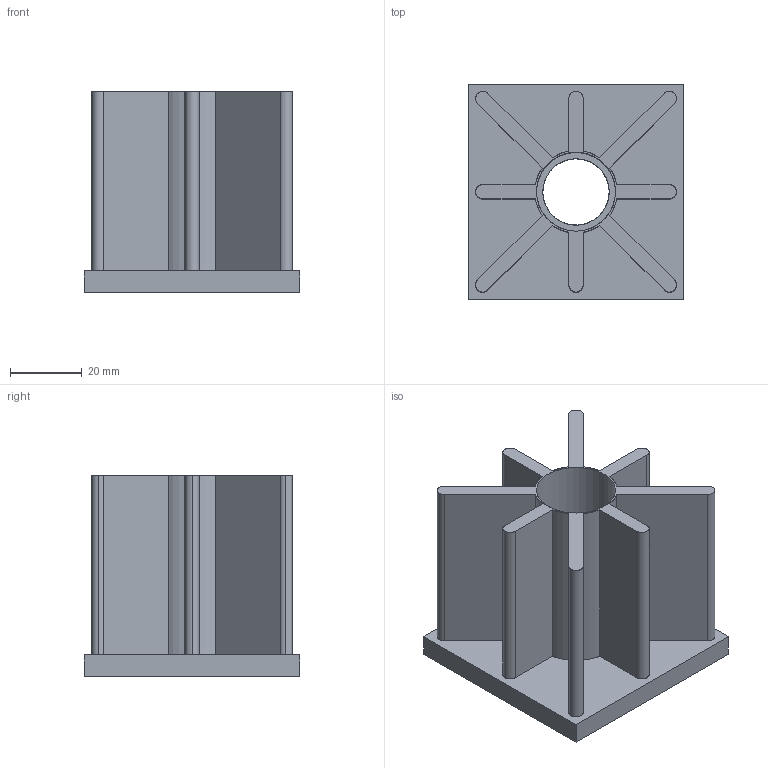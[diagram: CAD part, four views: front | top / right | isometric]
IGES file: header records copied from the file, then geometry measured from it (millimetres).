
Start section: SolidWorks IGES file using analytic representation for surfaces
Global section: file name: C:\Documents and Settings\URETIM3\Desktop\yeni katalog tolgay düzenli\A kataloðu\230 kare profil klavuzlari\230 kare profil klavuzlari montaj+part\230 602 020mntj.IGS; native system: SolidWorks 2006 by SolidWorks Corporation; preprocessor: SolidWorks 2006 by SolidWorks Corporation; author: URETIM3; date: 060912.092703; units: millimetre
Bounding box: 60 x 60 x 56 mm (x, y, z)
Surface area: 33899.3 mm2 (no closed solid volume)
Topology: 0 solids, 0 shells, 51 faces, 660 edges, 660 vertices
Faces by surface type: revolution 27, bspline 24
